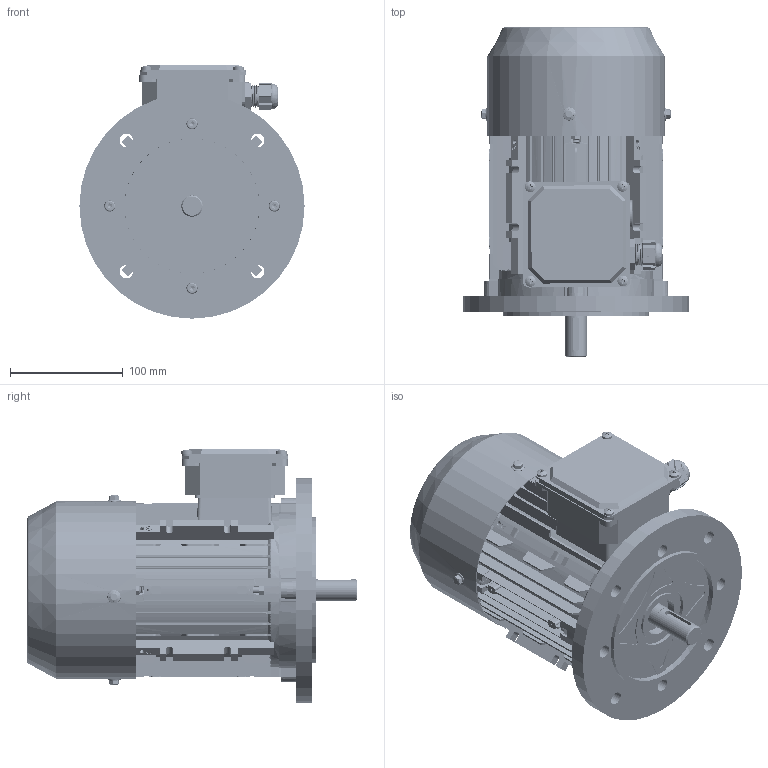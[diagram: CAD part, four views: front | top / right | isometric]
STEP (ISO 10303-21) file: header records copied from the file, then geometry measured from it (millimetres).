
FILE_DESCRIPTION (( 'STEP AP203' ), '1' );
FILE_NAME ('ME3-80B5 3Dͼ.STEP', '2024-05-18T06:52:24', ( 'User' ), ( 'China' ), 'SwSTEP 2.0', 'SolidWorks 2018', '' );
FILE_SCHEMA (( 'CONFIG_CONTROL_DESIGN' ));
Length unit declared in the file: millimetre
Products named in the file (17): MS63-71諉盄碟菁釱; wave single coil spring lock washers gb_GB_FASTENER_WASHER_WSLW 6; 蹟杶郋M20X1.5; 黑芛20X1.5; 蹟簸M20X1.5; ME2  80B5瑞盖; cross recessed pan head screws gb_GB_CROSS_SCREWS_TYPE1 M5X8-8  H type-C; MS63-71諉盄碟裔; hex nuts, style 2-grades ab gb_GB_HEXAGON_TYPE13 M5 Normal Style-C; ME3 80儂褲; hex lobular socket head cap screws-4.8 gb_GB_HEXAGON_TYPE21 M6X30-30-S; ME2  B3后瑞盖; hex lobular socket head cap screws-4.8 gb_GB_HEXAGON_TYPE21 M6X40-40-C; ME2  80瑞欶; ME2  80蛌粣; ME3-80B5 3Dͼ; hex flange bolts-heavy grade b gb_GB_FASTENER_BOLT_HFBB M5X10-C
Assembly tree (41 placements, depth 2):
  ME3-80B5 3Dͼ
    ME3 80儂褲
    ME2  B3后瑞盖
    ME2  80蛌粣
    MS63-71諉盄碟菁釱
    蹟杶郋M20X1.5
    蹟簸M20X1.5
    cross recessed pan head screws gb_GB_CROSS_SCREWS_TYPE1 M5X8-8  H type-C  x8
    MS63-71諉盄碟裔
    hex nuts, style 2-grades ab gb_GB_HEXAGON_TYPE13 M5 Normal Style-C  x7
    hex lobular socket head cap screws-4.8 gb_GB_HEXAGON_TYPE21 M6X30-30-S  x4
    ME2  80瑞欶
    hex flange bolts-heavy grade b gb_GB_FASTENER_BOLT_HFBB M5X10-C  x4
    wave single coil spring lock washers gb_GB_FASTENER_WASHER_WSLW 6  x4
    黑芛20X1.5
    ME2  80B5瑞盖
    hex lobular socket head cap screws-4.8 gb_GB_HEXAGON_TYPE21 M6X40-40-C  x4
Bounding box: 200 x 292.56 x 225 mm (x, y, z)
Volume: 1045167.3 mm3; surface area: 639138.8 mm2
Topology: 41 solids, 43 shells, 5042 faces, 12984 edges, 8155 vertices
Faces by surface type: plane 2320, cylinder 1218, cone 1081, bspline 208, torus 199, sphere 16
Entity records: 139421 total; most frequent: CARTESIAN_POINT 45058, ORIENTED_EDGE 20368, DIRECTION 17529, EDGE_CURVE 10184, VERTEX_POINT 6629, AXIS2_PLACEMENT_3D 5858, VECTOR 5813, LINE 5813
